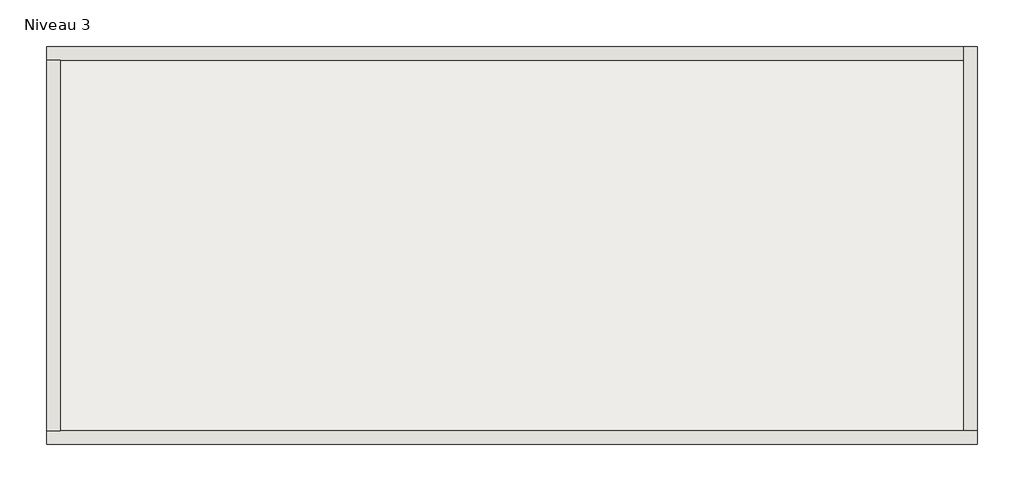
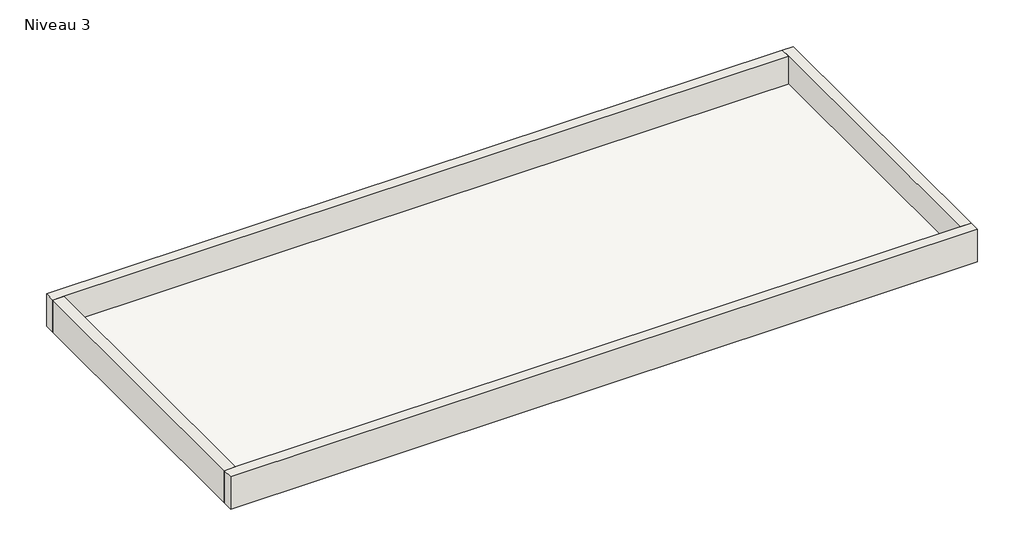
# One storey: 4 walls, 1 slab.
"""IFC4 building model written with IfcOpenShell, lengths in millimetres."""

from ifc_helpers import new_model, si_unit, origin, place, context, project, spatial, faceted_brep, element, save

model = new_model("IFC4")

# Units and contexts
model_context = context("Model", 3, world=origin())
ifc_project = project(units=[si_unit("LENGTHUNIT", "METRE", prefix="MILLI")], contexts=[model_context])

# Site, building, storey
site = spatial("IfcSite", under=ifc_project)
building = spatial("IfcBuilding", under=site)
storey = spatial("IfcBuildingStorey", under=building, Name="Niveau 3", Elevation=10800.0)

# Slab
placement = place(None, origin())
element("IfcSlab", 1, ObjectType="Dalle en béton - 150 mm", at=placement, inside=storey, context=model_context, shape_type="Brep", body=[
    faceted_brep([(-14018.240701, -4805.3060551, 10800.0), (-14018.240701, 3874.6939449, 10800.0), (7161.759299, 3874.6939449, 10800.0), (7181.759299, 3874.6939449, 10800.0), (7181.759299, -4805.3060551, 10800.0), (-14018.240701, -4805.3060551, 10950.0), (7161.759299, -4805.3060551, 10950.0), (7181.759299, -4805.3060551, 10950.0), (7181.759299, 3874.6939449, 10950.0), (7161.759299, 3874.6939449, 10950.0), (-14018.240701, 3874.6939449, 10950.0)], [[[0, 1, 2, 3, 4]], [[5, 6, 7, 8, 9, 10]], [[1, 0, 5, 10]], [[3, 2, 1, 10, 9, 8]], [[4, 3, 8, 7]], [[0, 4, 7, 6, 5]]]),
])

# Walls
element("IfcWall", 2, ObjectType="Ext. Voile BA 20 + Isolant 10", at=placement, inside=storey, context=model_context, shape_type="Brep", body=[
    faceted_brep([(-14338.240701, -5125.3060551, 10800.0), (7481.759299, -5125.3060551, 10800.0), (7481.759299, -5125.3060551, 11800.0), (-14338.240701, -5125.3060551, 11800.0), (-14338.240701, -4805.3060551, 10800.0), (-14338.240701, -4805.3060551, 11800.0), (-14018.240701, -4805.3060551, 11800.0), (7161.759299, -4805.3060551, 11800.0), (7481.759299, -4805.3060551, 11800.0), (7481.759299, -4805.3060551, 10800.0), (7181.759299, -4805.3060551, 10800.0), (-14018.240701, -4805.3060551, 10800.0)], [[[0, 1, 2, 3]], [[4, 5, 6, 7, 8, 9, 10, 11]], [[1, 0, 4, 11, 10, 9]], [[3, 2, 8, 7, 6, 5]], [[2, 1, 9, 8]], [[0, 3, 5, 4]]]),
])
element("IfcWall", 3, ObjectType="Ext. Voile BA 20 + Isolant 10", at=placement, inside=storey, context=model_context, shape_type="Brep", body=[
    faceted_brep([(7481.759299, -4805.3060551, 10800.0), (7481.759299, 4194.6939449, 10800.0), (7481.759299, 4194.6939449, 11800.0), (7481.759299, -4805.3060551, 11800.0), (7161.759299, -4805.3060551, 11800.0), (7161.759299, 3874.6939449, 11800.0), (7161.759299, 4194.6939449, 11800.0), (7161.759299, 4194.6939449, 10800.0), (7161.759299, 3874.6939449, 10800.0), (7161.759299, 3874.6939449, 10950.0), (7161.759299, -4805.3060551, 10950.0), (7181.759299, -4805.3060551, 10800.0), (7181.759299, 3874.6939449, 10800.0), (7181.759299, -4805.3060551, 10950.0), (7181.759299, 3874.6939449, 10950.0)], [[[0, 1, 2, 3]], [[4, 5, 6, 7, 8, 9, 10]], [[1, 0, 11, 12, 8, 7]], [[3, 2, 6, 5, 4]], [[0, 3, 4, 10, 13, 11]], [[2, 1, 7, 6]], [[14, 13, 10, 9]], [[12, 14, 9, 8]], [[13, 14, 12, 11]]]),
])
element("IfcWall", 4, ObjectType="Ext. Voile BA 20 + Isolant 10", at=placement, inside=storey, context=model_context, shape_type="Brep", body=[
    faceted_brep([(7161.759299, 4194.6939449, 10800.0), (-14338.240701, 4194.6939449, 10800.0), (-14338.240701, 4194.6939449, 11800.0), (7161.759299, 4194.6939449, 11800.0), (7161.759299, 3874.6939449, 10800.0), (7161.759299, 3874.6939449, 10950.0), (7161.759299, 3874.6939449, 11800.0), (-14018.240701, 3874.6939449, 11800.0), (-14338.240701, 3874.6939449, 11800.0), (-14338.240701, 3874.6939449, 10800.0), (-14018.240701, 3874.6939449, 10800.0)], [[[0, 1, 2, 3]], [[4, 5, 6, 7, 8, 9, 10]], [[1, 0, 4, 10, 9]], [[3, 2, 8, 7, 6]], [[0, 3, 6, 5, 4]], [[2, 1, 9, 8]]]),
])
element("IfcWall", 5, ObjectType="Ext. Voile BA 20 + Isolant 10", at=placement, inside=storey, context=model_context, shape_type="Brep", body=[
    faceted_brep([(-14338.240701, 3874.6939449, 10800.0), (-14338.240701, -4805.3060551, 10800.0), (-14338.240701, -4805.3060551, 11800.0), (-14338.240701, 3874.6939449, 11800.0), (-14018.240701, 3874.6939449, 10800.0), (-14018.240701, 3874.6939449, 10950.0), (-14018.240701, 3874.6939449, 11800.0), (-14018.240701, -4805.3060551, 11800.0), (-14018.240701, -4805.3060551, 10950.0), (-14018.240701, -4805.3060551, 10800.0)], [[[0, 1, 2, 3]], [[4, 5, 6, 7, 8, 9]], [[1, 0, 4, 9]], [[3, 2, 7, 6]], [[2, 1, 9, 8, 7]], [[0, 3, 6, 5, 4]]]),
])

save(model, "model.ifc")
